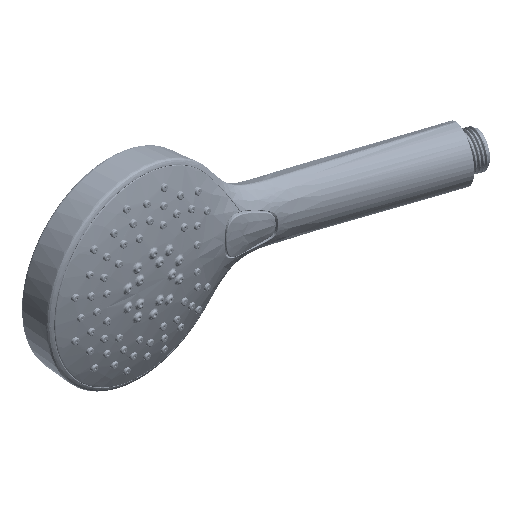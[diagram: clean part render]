
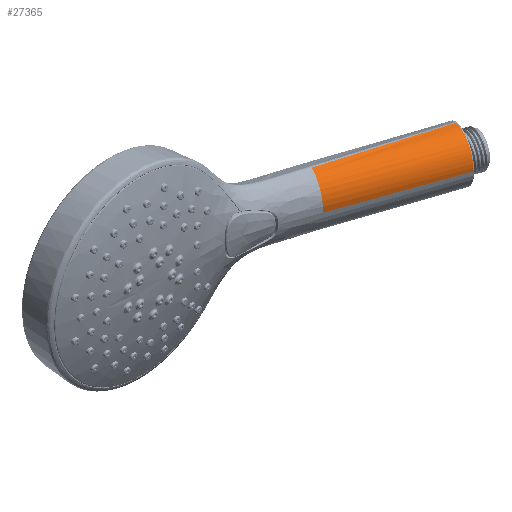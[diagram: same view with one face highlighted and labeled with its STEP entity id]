
A CAD part, isometric view. The second image highlights one B-rep face of the part: STEP entity #27365.
In plain terms, the highlighted free-form (B-spline) face has degree [3, 3] with [6, 4] control points.
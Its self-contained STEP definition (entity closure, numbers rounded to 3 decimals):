
#3015=CARTESIAN_POINT('',(93.053,-11.844,16.041));
#3016=CARTESIAN_POINT('',(92.818,-12.465,15.841));
#3017=CARTESIAN_POINT('',(92.289,-13.864,15.303));
#3018=CARTESIAN_POINT('',(91.519,-15.901,14.197));
#3019=CARTESIAN_POINT('',(90.77,-17.882,12.668));
#3020=CARTESIAN_POINT('',(90.124,-19.591,10.809));
#3021=CARTESIAN_POINT('',(89.595,-20.99,8.621));
#3022=CARTESIAN_POINT('',(89.199,-22.039,6.1));
#3023=CARTESIAN_POINT('',(88.949,-22.699,3.246));
#3024=CARTESIAN_POINT('',(88.89,-22.855,1.119));
#3025=CARTESIAN_POINT('',(88.89,-22.855,
0.));
#3031=CARTESIAN_POINT('',(161.642,-31.092,15.038));
#3032=CARTESIAN_POINT('',(161.523,-31.437,15.047));
#3033=CARTESIAN_POINT('',(161.173,-32.434,15.083));
#3034=CARTESIAN_POINT('',(160.172,-35.297,14.777));
#3035=CARTESIAN_POINT('',(159.51,-37.189,14.283));
#3036=CARTESIAN_POINT('',(158.665,-39.6,13.286));
#3037=CARTESIAN_POINT('',(157.838,-41.963,11.669));
#3038=CARTESIAN_POINT('',(157.055,-44.195,9.073));
#3039=CARTESIAN_POINT('',(156.658,-45.326,6.869));
#3040=CARTESIAN_POINT('',(156.463,-45.882,5.489));
#3041=CARTESIAN_POINT('',(156.261,-46.457,3.52));
#3042=CARTESIAN_POINT('',(156.155,-46.758,1.676));
#3043=CARTESIAN_POINT('',(156.131,-46.825,
0.529));
#3044=CARTESIAN_POINT('',(156.131,-46.825,
0.));
#3046=DIRECTION('',(-0.942,0.336,0.));
#3047=VECTOR('',#3046,71.386);
#3048=CARTESIAN_POINT('',(156.131,-46.825,
0.));
#3049=LINE('',#3048,#3047);
#3050=CARTESIAN_POINT('',(93.053,-11.844,16.041));
#3051=CARTESIAN_POINT('',(94.066,-12.125,16.031));
#3052=CARTESIAN_POINT('',(96.198,-12.717,16.008));
#3053=CARTESIAN_POINT('',(99.549,-13.65,15.969));
#3054=CARTESIAN_POINT('',(103.211,-14.672,15.923));
#3055=CARTESIAN_POINT('',(107.187,-15.785,15.871));
#3056=CARTESIAN_POINT('',(111.502,-16.996,15.812));
#3057=CARTESIAN_POINT('',(116.217,-18.323,15.745));
#3058=CARTESIAN_POINT('',(121.392,-19.783,15.669));
#3059=CARTESIAN_POINT('',(126.984,-21.364,15.585));
#3060=CARTESIAN_POINT('',(132.79,-23.007,15.496));
#3061=CARTESIAN_POINT('',(138.448,-24.608,15.408));
#3062=CARTESIAN_POINT('',(143.667,-26.082,15.326));
#3063=CARTESIAN_POINT('',(148.33,-27.394,15.253));
#3064=CARTESIAN_POINT('',(152.489,-28.56,15.187));
#3065=CARTESIAN_POINT('',(156.236,-29.603,15.126));
#3066=CARTESIAN_POINT('',(159.242,-30.434,15.077));
#3067=CARTESIAN_POINT('',(161.004,-30.918,15.049));
#3068=CARTESIAN_POINT('',(161.642,-31.092,15.038));
#3090=CARTESIAN_POINT('',(93.053,-11.844,16.041));
#17928=VERTEX_POINT('',#3090);
#19928=VERTEX_POINT('',#3031);
#19929=VERTEX_POINT('',#3044);
#19930=CARTESIAN_POINT('',(88.89,-22.855,
0.));
#19931=VERTEX_POINT('',#19930);
#27331=CARTESIAN_POINT('',(87.546,-22.374,
-0.219));
#27332=CARTESIAN_POINT('',(110.856,-30.684,
-0.188));
#27333=CARTESIAN_POINT('',(134.166,-38.994,
-0.156));
#27334=CARTESIAN_POINT('',(157.476,-47.304,
-0.125));
#27335=CARTESIAN_POINT('',(87.546,-22.375,
-0.146));
#27336=CARTESIAN_POINT('',(110.856,-30.685,
-0.125));
#27337=CARTESIAN_POINT('',(134.166,-38.994,
-0.104));
#27338=CARTESIAN_POINT('',(157.476,-47.304,
-0.084));
#27339=CARTESIAN_POINT('',(87.53,-22.415,
8.877));
#27340=CARTESIAN_POINT('',(110.842,-30.72,
7.601));
#27341=CARTESIAN_POINT('',(134.154,-39.025,
6.325));
#27342=CARTESIAN_POINT('',(157.466,-47.329,
5.049));
#27343=CARTESIAN_POINT('',(89.406,-17.454,
14.198));
#27344=CARTESIAN_POINT('',(112.495,-26.379,
14.62));
#27345=CARTESIAN_POINT('',(135.584,-35.305,
15.042));
#27346=CARTESIAN_POINT('',(158.673,-44.23,
15.464));
#27347=CARTESIAN_POINT('',(91.837,-11.015,
16.199));
#27348=CARTESIAN_POINT('',(115.77,-17.839,
15.8));
#27349=CARTESIAN_POINT('',(139.703,-24.662,
15.401));
#27350=CARTESIAN_POINT('',(163.635,-31.486,
15.001));
#27351=CARTESIAN_POINT('',(91.852,-10.975,
16.212));
#27352=CARTESIAN_POINT('',(115.79,-17.785,
15.807));
#27353=CARTESIAN_POINT('',(139.728,-24.595,
15.403));
#27354=CARTESIAN_POINT('',(163.667,-31.405,
14.998));
#27355=B_SPLINE_SURFACE_WITH_KNOTS('',3,3,((#27331,#27332,#27333,#27334),
(#27335,#27336,#27337,#27338),(#27339,#27340,#27341,#27342),(#27343,#27344,
#27345,#27346),(#27347,#27348,#27349,#27350),(#27351,#27352,#27353,#27354)),
.UNSPECIFIED.,.F.,.F.,.F.,(4,1,1,4),(4,4),(-0.008,0.,1.,
1.006),(-0.01,1.01),.UNSPECIFIED.);
#27357=ORIENTED_EDGE('',*,*,#27356,.T.);
#27359=ORIENTED_EDGE('',*,*,#27358,.T.);
#27360=ORIENTED_EDGE('',*,*,#27322,.F.);
#27362=ORIENTED_EDGE('',*,*,#27361,.T.);
#27363=EDGE_LOOP('',(#27357,#27359,#27360,#27362));
#27364=FACE_OUTER_BOUND('',#27363,.F.);
#27365=ADVANCED_FACE('',(#27364),#27355,.F.);
#3026=B_SPLINE_CURVE_WITH_KNOTS('',3,(#3015,#3016,#3017,#3018,#3019,#3020,#3021,
#3022,#3023,#3024,#3025),.UNSPECIFIED.,.F.,.F.,(4,1,1,1,1,1,1,1,4),(0.,
0.098,0.227,0.356,0.485,
0.613,0.742,0.871,1.),.UNSPECIFIED.);
#3045=B_SPLINE_CURVE_WITH_KNOTS('',3,(#3031,#3032,#3033,#3034,#3035,#3036,#3037,
#3038,#3039,#3040,#3041,#3042,#3043,#3044),.UNSPECIFIED.,.F.,.F.,(4,1,1,1,1,1,1,
1,1,1,1,4),(0.,0.091,0.182,0.273,
0.364,0.455,0.545,0.636,
0.727,0.818,0.909,1.),.UNSPECIFIED.);
#3069=B_SPLINE_CURVE_WITH_KNOTS('',3,(#3050,#3051,#3052,#3053,#3054,#3055,#3056,
#3057,#3058,#3059,#3060,#3061,#3062,#3063,#3064,#3065,#3066,#3067,#3068),
.UNSPECIFIED.,.F.,.F.,(4,1,1,1,1,1,1,1,1,1,1,1,1,1,1,1,4),(0.,
0.044,0.093,0.146,0.204,
0.267,0.335,0.411,0.493,
0.58,0.665,0.741,0.808,
0.869,0.923,0.972,1.),.UNSPECIFIED.);
#27322=EDGE_CURVE('',#17928,#19931,#3026,.T.);
#27356=EDGE_CURVE('',#19928,#19929,#3045,.T.);
#27358=EDGE_CURVE('',#19929,#19931,#3049,.T.);
#27361=EDGE_CURVE('',#17928,#19928,#3069,.T.);
